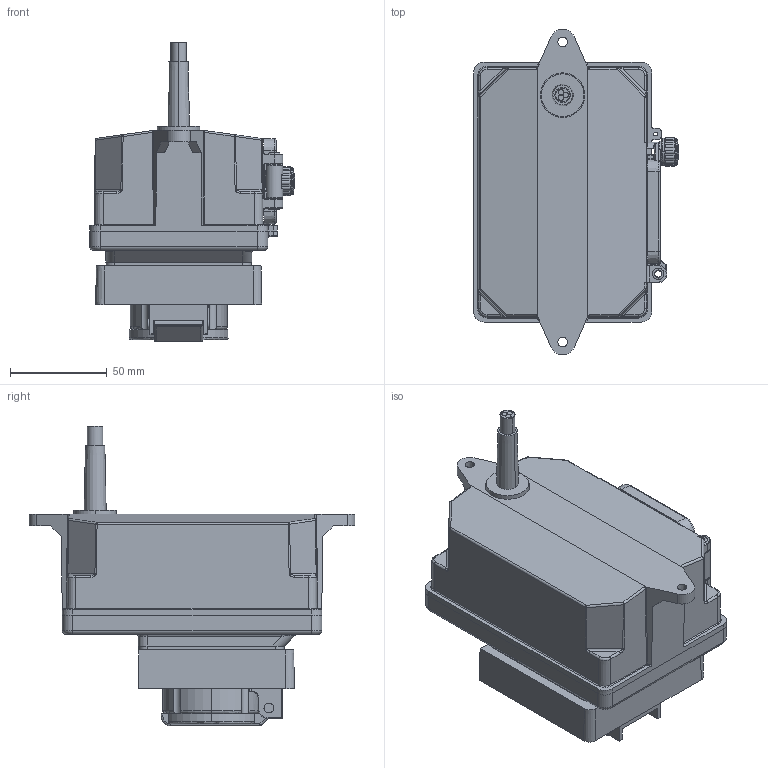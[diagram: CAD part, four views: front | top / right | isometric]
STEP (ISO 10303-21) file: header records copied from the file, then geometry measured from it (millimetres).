
FILE_DESCRIPTION (( 'STEP AP214' ), '1' );
FILE_NAME ('HSW4046 Neue Norm Typ 23.STEP', '2022-01-18T09:03:01', ( '' ), ( '' ), 'SwSTEP 2.0', 'SolidWorks 2021', '' );
FILE_SCHEMA (( 'AUTOMOTIVE_DESIGN' ));
Length unit declared in the file: millimetre
Products named in the file (1): HSW4046 Neue Norm Typ 23
Bounding box: 105.82 x 168 x 154.7 mm (x, y, z)
Surface area: 85867.8 mm2 (no closed solid volume)
Topology: 0 solids, 37 shells, 827 faces, 2990 edges, 2078 vertices
Faces by surface type: plane 299, cylinder 288, torus 83, bspline 70, cone 56, sphere 31
Entity records: 46214 total; most frequent: CARTESIAN_POINT 12962, DIRECTION 4820, ORIENTED_EDGE 4690, EDGE_CURVE 2975, VERTEX_POINT 2077, AXIS2_PLACEMENT_3D 1651, LINE 1518, VECTOR 1518
